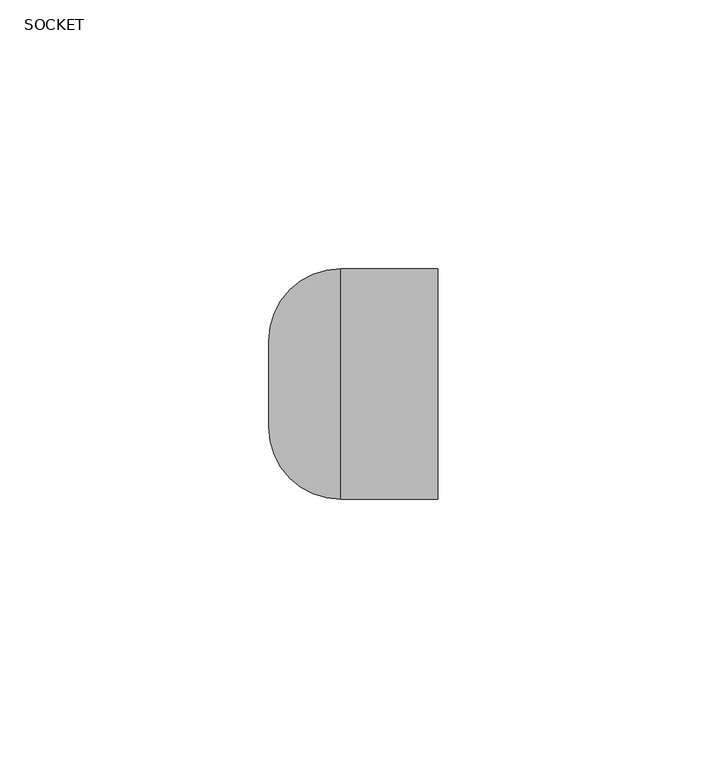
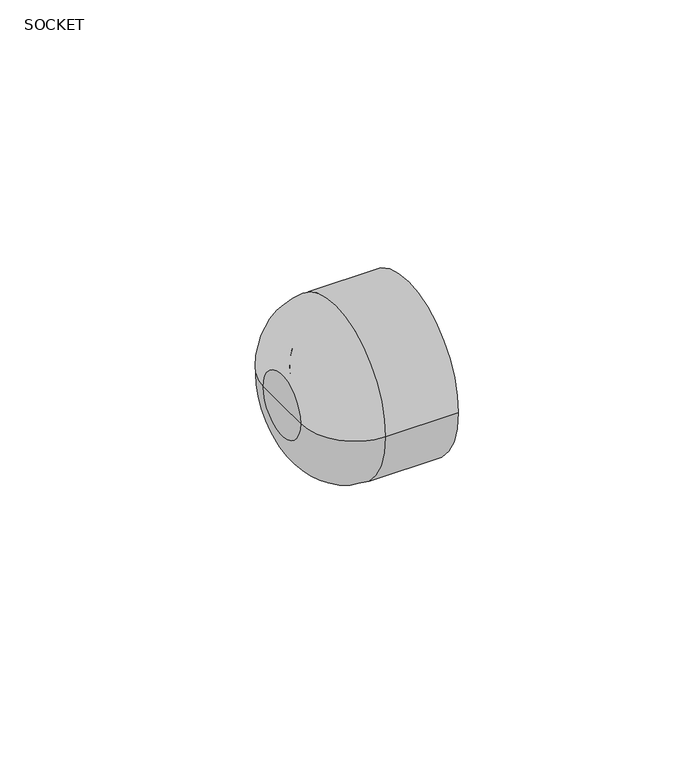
"""IFC4 building model written with IfcOpenShell, lengths in millimetres: pipe fitting geometry, Aquatherm - End Cap Socket : SOCKET."""

from ifc_helpers import new_model, si_unit, point, frame, origin, place, context, project, spatial, polyline, circle_curve, ellipse_curve, trimmed, source, transform, mapped, element, save
from ifc_brep_helpers import plane_surface, cylinder_surface, revolved_surface, advanced_brep


def socket_50f5b5c3(model_context):
    return source(origin(), model_context, "Body", "AdvancedBrep", [
        advanced_brep(
        [(-31.496, 0.0, 0.0), (-31.496, 8.001, 0.0), (-31.496, -8.001, 0.0), (-21.3964012, -16.002, 0.0), (-21.3964012, 16.002, 0.0), (-21.3964012, 12.7096012, 0.0), (-21.3964012, -12.7096012, 0.0), (0.0, -16.002, 0.0), (0.0, 16.002, 0.0), (0.0, -21.463, 0.0), (0.0, 21.463, 0.0), (-18.034, -21.463, 0.0), (-18.034, 21.463, 0.0), (-22.7426012, -11.3634012, 0.0), (-22.7426012, 11.3634012, 0.0), (-22.7426012, 0.0, 0.0)],
        [
            (0, 1),
            (1, 2, circle_curve(frame((-31.496, 0.0, 0.0), z_axis=(-1.0, 0.0, 0.0), x_axis=(0.0, 1.0, 0.0)), 8.001)),
            (2, 0),
            (2, 1, circle_curve(frame((-31.496, 0.0, 0.0), z_axis=(-1.0, 0.0, 0.0), x_axis=(0.0, 1.0, 0.0)), 8.001)),
            (3, 4, circle_curve(frame((-21.3964012, 0.0, 0.0), z_axis=(1.0, 0.0, 0.0), x_axis=(0.0, 1.0, 0.0)), 16.002)),
            (4, 5),
            (5, 6, circle_curve(frame((-21.3964012, 0.0, 0.0), z_axis=(-1.0, 0.0, 0.0), x_axis=(0.0, 1.0, 0.0)), 12.7096012)),
            (6, 3),
            (4, 3, circle_curve(frame((-21.3964012, 0.0, 0.0), z_axis=(1.0, 0.0, 0.0), x_axis=(0.0, 1.0, 0.0)), 16.002)),
            (6, 5, circle_curve(frame((-21.3964012, 0.0, 0.0), z_axis=(-1.0, 0.0, 0.0), x_axis=(0.0, 1.0, 0.0)), 12.7096012)),
            (7, 8, circle_curve(frame((0.0, 0.0, 0.0), z_axis=(1.0, 0.0, 0.0), x_axis=(0.0, 1.0, 0.0)), 16.002)),
            (8, 4),
            (3, 7),
            (8, 7, circle_curve(frame((0.0, 0.0, 0.0), z_axis=(1.0, 0.0, 0.0), x_axis=(0.0, 1.0, 0.0)), 16.002)),
            (9, 10, circle_curve(frame((0.0, 0.0, 0.0), z_axis=(1.0, 0.0, 0.0), x_axis=(0.0, 1.0, 0.0)), 21.463)),
            (10, 8),
            (7, 9),
            (10, 9, circle_curve(frame((0.0, 0.0, 0.0), z_axis=(1.0, 0.0, 0.0), x_axis=(0.0, 1.0, 0.0)), 21.463)),
            (11, 12, circle_curve(frame((-18.034, 0.0, 0.0), z_axis=(1.0, 0.0, 0.0), x_axis=(0.0, 1.0, 0.0)), 21.463)),
            (12, 10),
            (9, 11),
            (12, 11, circle_curve(frame((-18.034, 0.0, 0.0), z_axis=(1.0, 0.0, 0.0), x_axis=(0.0, 1.0, 0.0)), 21.463)),
            (1, 12, circle_curve(frame((-18.034, 8.001, 0.0), z_axis=(0.0, 0.0, -1.0), x_axis=(1.0, 0.0, 0.0)), 13.462)),
            (11, 2, circle_curve(frame((-18.034, -8.001, 0.0), z_axis=(0.0, 0.0, -1.0), x_axis=(1.0, 0.0, 0.0)), 13.462)),
            (13, 14, circle_curve(frame((-22.7426012, 0.0, 0.0), z_axis=(1.0, 0.0, 0.0), x_axis=(0.0, 1.0, 0.0)), 11.3634012)),
            (14, 15),
            (15, 13),
            (14, 13, circle_curve(frame((-22.7426012, 0.0, 0.0), z_axis=(1.0, 0.0, 0.0), x_axis=(0.0, 1.0, 0.0)), 11.3634012)),
            (5, 14, circle_curve(frame((-21.3964012, 11.3634012, 0.0), z_axis=(0.0, 0.0, 1.0), x_axis=(1.0, 0.0, 0.0)), 1.3462)),
            (13, 6, circle_curve(frame((-21.3964012, -11.3634012, 0.0), z_axis=(0.0, 0.0, 1.0), x_axis=(1.0, 0.0, 0.0)), 1.3462)),
        ],
        [
            plane_surface(frame((-31.496, 0.0, 0.0), z_axis=(-1.0, 0.0, 0.0), x_axis=(0.0, 1.0, 0.0))),
            plane_surface(frame((-21.3964012, 0.0, 0.0), z_axis=(1.0, 0.0, 0.0), x_axis=(0.0, 1.0, 0.0))),
            revolved_surface(polyline([(-21.3964012, 16.002, 0.0), (0.0, 16.002, 0.0)]), (-22.7426012, 0.0, 0.0), (-1.0, 0.0, 0.0)),
            plane_surface(frame((0.0, 0.0, 0.0), z_axis=(1.0, 0.0, 0.0), x_axis=(0.0, 1.0, 0.0))),
            cylinder_surface(frame((-22.7426012, 0.0, 0.0), z_axis=(-1.0, 0.0, 0.0), x_axis=(0.0, 1.0, 0.0)), 21.463),
            revolved_surface(trimmed(ellipse_curve(frame((-18.034, 8.001, 0.0), z_axis=(0.0, 0.0, 1.0), x_axis=(1.0, 0.0, 0.0)), 13.462, 13.462), [point((-18.034, 21.463, 0.0))], [point((-31.496, 8.001, 0.0))], True, "CARTESIAN"), (-22.7426012, 0.0, 0.0), (-1.0, 0.0, 0.0)),
            plane_surface(frame((-22.7426012, 0.0, 0.0), z_axis=(1.0, 0.0, 0.0), x_axis=(0.0, 1.0, 0.0))),
            revolved_surface(trimmed(ellipse_curve(frame((-21.3964012, 11.3634012, 0.0), z_axis=(0.0, 0.0, -1.0), x_axis=(1.0, 0.0, 0.0)), 1.3462, 1.3462), [point((-22.7426012, 11.3634012, 0.0))], [point((-21.3964012, 12.7096012, 0.0))], True, "CARTESIAN"), (-22.7426012, 0.0, 0.0), (-1.0, 0.0, 0.0)),
        ],
        [
            (0, [[1, 2, 3]]),
            (0, [[-3, 4, -1]]),
            (1, [[5, 6, 7, 8]]),
            (1, [[9, -8, 10, -6]]),
            (2, [[11, 12, -5, 13]]),
            (2, [[14, -13, -9, -12]]),
            (3, [[15, 16, -11, 17]]),
            (3, [[18, -17, -14, -16]]),
            (4, [[19, 20, -15, 21]]),
            (4, [[22, -21, -18, -20]]),
            (5, [[-2, 23, -19, 24]]),
            (5, [[-4, -24, -22, -23]]),
            (6, [[25, 26, 27]]),
            (6, [[28, -27, -26]]),
            (7, [[-7, 29, -25, 30]]),
            (7, [[-10, -30, -28, -29]]),
        ],
    ),
    ])


if __name__ == "__main__":
    model = new_model("IFC4")
    model_context = context("Model", 3, world=origin())
    ifc_project = project(units=[si_unit("LENGTHUNIT", "METRE", prefix="MILLI")], contexts=[model_context])
    site = spatial("IfcSite", under=ifc_project)
    building = spatial("IfcBuilding", under=site)
    placement = place(None, origin())
    ifc_socket_shape = socket_50f5b5c3(model_context)
    element("IfcPipeFitting", 1, ObjectType="Aquatherm - End Cap Socket : SOCKET", at=placement, inside=building, context=model_context, shape_type="MappedRepresentation", body=[
        mapped(ifc_socket_shape, transform((0.0, 0.0, 0.0), x_axis=(1.0, 0.0, 0.0), y_axis=(0.0, 1.0, 0.0), z_axis=(0.0, 0.0, 1.0))),
    ])
    save(model, "model.ifc")
